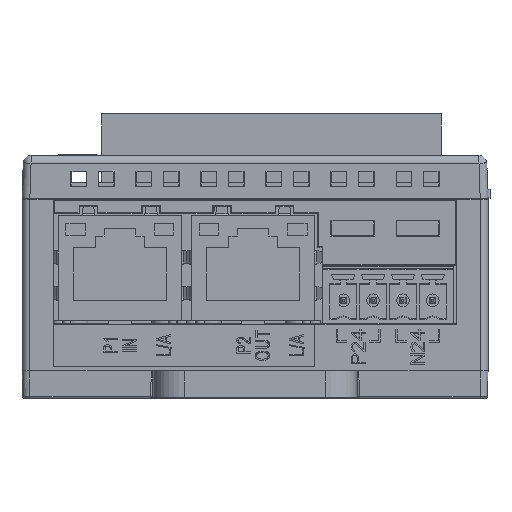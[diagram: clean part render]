
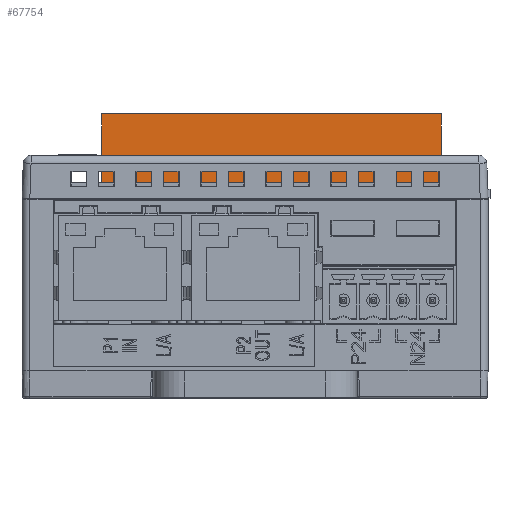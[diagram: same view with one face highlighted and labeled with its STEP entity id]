
A CAD part, front view. The second image highlights one B-rep face of the part: STEP entity #67754.
In plain terms, the highlighted planar face has unit normal (0, -1, 0).
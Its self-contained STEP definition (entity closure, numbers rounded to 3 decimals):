
#1927=DIRECTION('',(1.,0.,0.));
#1928=VECTOR('',#1927,43.3);
#1929=CARTESIAN_POINT('',(-19.55,-19.15,27.5));
#1930=LINE('',#1929,#1928);
#4363=DIRECTION('',(0.,0.,-1.));
#4364=VECTOR('',#4363,8.8);
#4365=CARTESIAN_POINT('',(23.75,-19.15,36.3));
#4366=LINE('',#4365,#4364);
#4371=DIRECTION('',(0.,0.,-1.));
#4372=VECTOR('',#4371,8.8);
#4373=CARTESIAN_POINT('',(-19.55,-19.15,36.3));
#4374=LINE('',#4373,#4372);
#4375=DIRECTION('',(-1.,0.,0.));
#4376=VECTOR('',#4375,43.3);
#4377=CARTESIAN_POINT('',(23.75,-19.15,36.3));
#4378=LINE('',#4377,#4376);
#49796=CARTESIAN_POINT('',(-19.55,-19.15,36.3));
#49798=VERTEX_POINT('',#49796);
#49802=CARTESIAN_POINT('',(23.75,-19.15,36.3));
#49803=VERTEX_POINT('',#49802);
#61749=CARTESIAN_POINT('',(-19.55,-19.15,27.5));
#61751=VERTEX_POINT('',#61749);
#61752=CARTESIAN_POINT('',(23.75,-19.15,27.5));
#61753=VERTEX_POINT('',#61752);
#67742=CARTESIAN_POINT('',(2.1,-19.15,31.7));
#67743=DIRECTION('',(0.,1.,0.));
#67744=DIRECTION('',(1.,0.,0.));
#67745=AXIS2_PLACEMENT_3D('',#67742,#67743,#67744);
#67746=PLANE('',#67745);
#67747=ORIENTED_EDGE('',*,*,#63899,.F.);
#67748=ORIENTED_EDGE('',*,*,#67688,.F.);
#67750=ORIENTED_EDGE('',*,*,#67749,.F.);
#67751=ORIENTED_EDGE('',*,*,#67727,.T.);
#67752=EDGE_LOOP('',(#67747,#67748,#67750,#67751));
#67753=FACE_OUTER_BOUND('',#67752,.F.);
#67754=ADVANCED_FACE('',(#67753),#67746,.F.);
#63899=EDGE_CURVE('',#61751,#61753,#1930,.T.);
#67688=EDGE_CURVE('',#49798,#61751,#4374,.T.);
#67727=EDGE_CURVE('',#49803,#61753,#4366,.T.);
#67749=EDGE_CURVE('',#49803,#49798,#4378,.T.);
